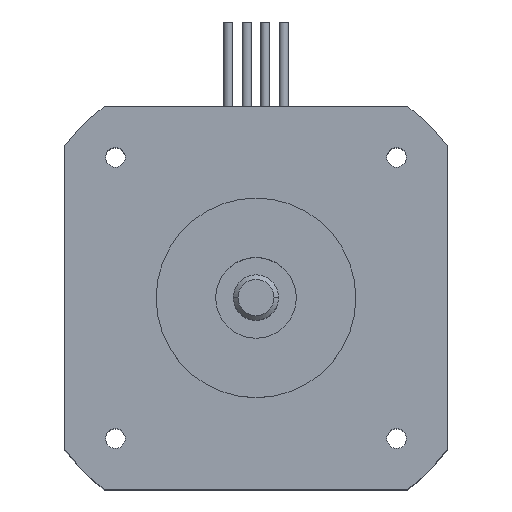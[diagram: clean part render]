
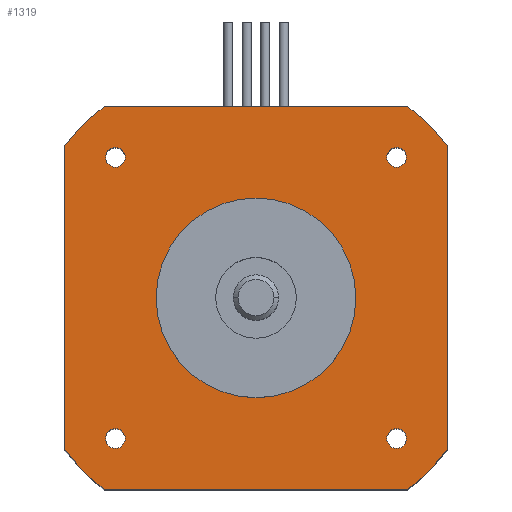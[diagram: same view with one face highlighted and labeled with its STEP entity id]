
A CAD part, top view. The second image highlights one B-rep face of the part: STEP entity #1319.
In plain terms, the highlighted planar face has unit normal (0, 0, 1).
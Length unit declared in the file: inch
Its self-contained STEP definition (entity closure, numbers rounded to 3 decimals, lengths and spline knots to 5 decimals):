
#237=CARTESIAN_POINT('',(-0.653,0.61,1.89));
#238=VERTEX_POINT('',#237);
#254=CARTESIAN_POINT('',(-0.567,0.61,1.89));
#255=VERTEX_POINT('',#254);
#262=CARTESIAN_POINT('',(-0.61,0.61,1.89));
#263=DIRECTION('',(0.0,0.0,-1.0));
#264=DIRECTION('',(-1.0,0.0,0.0));
#265=AXIS2_PLACEMENT_3D('',#262,#263,#264);
#266=CIRCLE('',#265,0.043);
#267=EDGE_CURVE('',#238,#255,#266,.T.);
#279=CARTESIAN_POINT('',(0.61,0.653,1.89));
#280=VERTEX_POINT('',#279);
#296=CARTESIAN_POINT('',(0.61,0.567,1.89));
#297=VERTEX_POINT('',#296);
#304=CARTESIAN_POINT('',(0.61,0.61,1.89));
#305=DIRECTION('',(0.0,0.0,-1.0));
#306=DIRECTION('',(0.0,1.0,0.0));
#307=AXIS2_PLACEMENT_3D('',#304,#305,#306);
#308=CIRCLE('',#307,0.043);
#309=EDGE_CURVE('',#280,#297,#308,.T.);
#321=CARTESIAN_POINT('',(-0.61,-0.653,1.89));
#322=VERTEX_POINT('',#321);
#338=CARTESIAN_POINT('',(-0.61,-0.567,1.89));
#339=VERTEX_POINT('',#338);
#346=CARTESIAN_POINT('',(-0.61,-0.61,1.89));
#347=DIRECTION('',(0.0,0.0,-1.0));
#348=DIRECTION('',(0.0,-1.0,0.0));
#349=AXIS2_PLACEMENT_3D('',#346,#347,#348);
#350=CIRCLE('',#349,0.043);
#351=EDGE_CURVE('',#322,#339,#350,.T.);
#363=CARTESIAN_POINT('',(0.653,-0.61,1.89));
#364=VERTEX_POINT('',#363);
#380=CARTESIAN_POINT('',(0.567,-0.61,1.89));
#381=VERTEX_POINT('',#380);
#388=CARTESIAN_POINT('',(0.61,-0.61,1.89));
#389=DIRECTION('',(0.0,0.0,-1.0));
#390=DIRECTION('',(1.0,0.0,0.0));
#391=AXIS2_PLACEMENT_3D('',#388,#389,#390);
#392=CIRCLE('',#391,0.043);
#393=EDGE_CURVE('',#364,#381,#392,.T.);
#403=CARTESIAN_POINT('',(-0.433,0.,1.89));
#404=VERTEX_POINT('',#403);
#413=CARTESIAN_POINT('',(0.433,0.,1.89));
#414=VERTEX_POINT('',#413);
#415=CARTESIAN_POINT('',(0.0,0.0,1.89));
#416=DIRECTION('',(0.0,0.0,-1.0));
#417=DIRECTION('',(-1.0,0.0,0.0));
#418=AXIS2_PLACEMENT_3D('',#415,#416,#417);
#419=CIRCLE('',#418,0.433);
#420=EDGE_CURVE('',#414,#404,#419,.T.);
#917=CARTESIAN_POINT('',(-0.83,0.65932,1.89));
#918=VERTEX_POINT('',#917);
#927=CARTESIAN_POINT('',(-0.65932,0.83,1.89));
#928=VERTEX_POINT('',#927);
#929=CARTESIAN_POINT('',(0.0,0.0,1.89));
#930=DIRECTION('',(0.0,0.0,1.0));
#931=DIRECTION('',(1.0,0.0,0.0));
#932=AXIS2_PLACEMENT_3D('',#929,#930,#931);
#933=CIRCLE('',#932,1.06);
#934=EDGE_CURVE('',#928,#918,#933,.T.);
#959=CARTESIAN_POINT('',(0.65932,0.83,1.89));
#960=VERTEX_POINT('',#959);
#969=CARTESIAN_POINT('',(0.83,0.65932,1.89));
#970=VERTEX_POINT('',#969);
#971=CARTESIAN_POINT('',(0.0,0.0,1.89));
#972=DIRECTION('',(0.0,0.0,1.0));
#973=DIRECTION('',(1.0,0.0,0.0));
#974=AXIS2_PLACEMENT_3D('',#971,#972,#973);
#975=CIRCLE('',#974,1.06);
#976=EDGE_CURVE('',#970,#960,#975,.T.);
#1001=CARTESIAN_POINT('',(0.83,-0.65932,1.89));
#1002=VERTEX_POINT('',#1001);
#1011=CARTESIAN_POINT('',(0.65932,-0.83,1.89));
#1012=VERTEX_POINT('',#1011);
#1013=CARTESIAN_POINT('',(0.0,0.0,1.89));
#1014=DIRECTION('',(0.0,0.0,1.0));
#1015=DIRECTION('',(1.0,0.0,0.0));
#1016=AXIS2_PLACEMENT_3D('',#1013,#1014,#1015);
#1017=CIRCLE('',#1016,1.06);
#1018=EDGE_CURVE('',#1012,#1002,#1017,.T.);
#1043=CARTESIAN_POINT('',(-0.65932,-0.83,1.89));
#1044=VERTEX_POINT('',#1043);
#1053=CARTESIAN_POINT('',(-0.83,-0.65932,1.89));
#1054=VERTEX_POINT('',#1053);
#1055=CARTESIAN_POINT('',(0.0,0.0,1.89));
#1056=DIRECTION('',(0.0,0.0,1.0));
#1057=DIRECTION('',(1.0,0.0,0.0));
#1058=AXIS2_PLACEMENT_3D('',#1055,#1056,#1057);
#1059=CIRCLE('',#1058,1.06);
#1060=EDGE_CURVE('',#1054,#1044,#1059,.T.);
#1172=CARTESIAN_POINT('',(-0.83,0.65932,1.89));
#1173=DIRECTION('',(0.0,-1.0,0.0));
#1174=VECTOR('',#1173,1.31864);
#1175=LINE('',#1172,#1174);
#1176=EDGE_CURVE('',#918,#1054,#1175,.T.);
#1221=CARTESIAN_POINT('',(0.0,0.0,1.89));
#1222=DIRECTION('',(0.0,0.0,-1.0));
#1223=DIRECTION('',(-1.0,0.0,0.0));
#1224=AXIS2_PLACEMENT_3D('',#1221,#1222,#1223);
#1225=CIRCLE('',#1224,0.433);
#1226=EDGE_CURVE('',#404,#414,#1225,.T.);
#1245=CARTESIAN_POINT('',(0.0,0.0,1.89));
#1246=DIRECTION('',(0.0,0.0,1.0));
#1247=DIRECTION('',(1.0,0.0,0.0));
#1248=AXIS2_PLACEMENT_3D('',#1245,#1246,#1247);
#1249=PLANE('',#1248);
#1250=ORIENTED_EDGE('',*,*,#1060,.T.);
#1251=CARTESIAN_POINT('',(-0.65932,-0.83,1.89));
#1252=DIRECTION('',(1.0,0.0,0.0));
#1253=VECTOR('',#1252,1.31864);
#1254=LINE('',#1251,#1253);
#1255=EDGE_CURVE('',#1044,#1012,#1254,.T.);
#1256=ORIENTED_EDGE('',*,*,#1255,.T.);
#1257=ORIENTED_EDGE('',*,*,#1018,.T.);
#1258=CARTESIAN_POINT('',(0.83,-0.65932,1.89));
#1259=DIRECTION('',(0.0,1.0,0.0));
#1260=VECTOR('',#1259,1.31864);
#1261=LINE('',#1258,#1260);
#1262=EDGE_CURVE('',#1002,#970,#1261,.T.);
#1263=ORIENTED_EDGE('',*,*,#1262,.T.);
#1264=ORIENTED_EDGE('',*,*,#976,.T.);
#1265=CARTESIAN_POINT('',(0.65932,0.83,1.89));
#1266=DIRECTION('',(-1.0,0.0,0.0));
#1267=VECTOR('',#1266,1.31864);
#1268=LINE('',#1265,#1267);
#1269=EDGE_CURVE('',#960,#928,#1268,.T.);
#1270=ORIENTED_EDGE('',*,*,#1269,.T.);
#1271=ORIENTED_EDGE('',*,*,#934,.T.);
#1272=ORIENTED_EDGE('',*,*,#1176,.T.);
#1273=EDGE_LOOP('',(#1250,#1256,#1257,#1263,#1264,#1270,#1271,#1272));
#1274=FACE_OUTER_BOUND('',#1273,.T.);
#1275=CARTESIAN_POINT('',(-0.61,0.61,1.89));
#1276=DIRECTION('',(0.0,0.0,-1.0));
#1277=DIRECTION('',(-1.0,0.0,0.0));
#1278=AXIS2_PLACEMENT_3D('',#1275,#1276,#1277);
#1279=CIRCLE('',#1278,0.043);
#1280=EDGE_CURVE('',#255,#238,#1279,.T.);
#1281=ORIENTED_EDGE('',*,*,#1280,.T.);
#1282=ORIENTED_EDGE('',*,*,#267,.T.);
#1283=EDGE_LOOP('',(#1281,#1282));
#1284=FACE_BOUND('',#1283,.T.);
#1285=CARTESIAN_POINT('',(0.61,0.61,1.89));
#1286=DIRECTION('',(0.0,0.0,-1.0));
#1287=DIRECTION('',(0.0,1.0,0.0));
#1288=AXIS2_PLACEMENT_3D('',#1285,#1286,#1287);
#1289=CIRCLE('',#1288,0.043);
#1290=EDGE_CURVE('',#297,#280,#1289,.T.);
#1291=ORIENTED_EDGE('',*,*,#1290,.T.);
#1292=ORIENTED_EDGE('',*,*,#309,.T.);
#1293=EDGE_LOOP('',(#1291,#1292));
#1294=FACE_BOUND('',#1293,.T.);
#1295=CARTESIAN_POINT('',(-0.61,-0.61,1.89));
#1296=DIRECTION('',(0.0,0.0,-1.0));
#1297=DIRECTION('',(0.0,-1.0,0.0));
#1298=AXIS2_PLACEMENT_3D('',#1295,#1296,#1297);
#1299=CIRCLE('',#1298,0.043);
#1300=EDGE_CURVE('',#339,#322,#1299,.T.);
#1301=ORIENTED_EDGE('',*,*,#1300,.T.);
#1302=ORIENTED_EDGE('',*,*,#351,.T.);
#1303=EDGE_LOOP('',(#1301,#1302));
#1304=FACE_BOUND('',#1303,.T.);
#1305=CARTESIAN_POINT('',(0.61,-0.61,1.89));
#1306=DIRECTION('',(0.0,0.0,-1.0));
#1307=DIRECTION('',(1.0,0.0,0.0));
#1308=AXIS2_PLACEMENT_3D('',#1305,#1306,#1307);
#1309=CIRCLE('',#1308,0.043);
#1310=EDGE_CURVE('',#381,#364,#1309,.T.);
#1311=ORIENTED_EDGE('',*,*,#1310,.T.);
#1312=ORIENTED_EDGE('',*,*,#393,.T.);
#1313=EDGE_LOOP('',(#1311,#1312));
#1314=FACE_BOUND('',#1313,.T.);
#1315=ORIENTED_EDGE('',*,*,#420,.T.);
#1316=ORIENTED_EDGE('',*,*,#1226,.T.);
#1317=EDGE_LOOP('',(#1315,#1316));
#1318=FACE_BOUND('',#1317,.T.);
#1319=ADVANCED_FACE('',(#1274,#1284,#1294,#1304,#1314,#1318),#1249,.T.);
